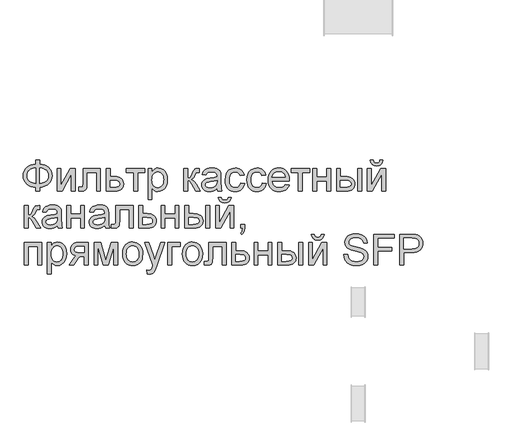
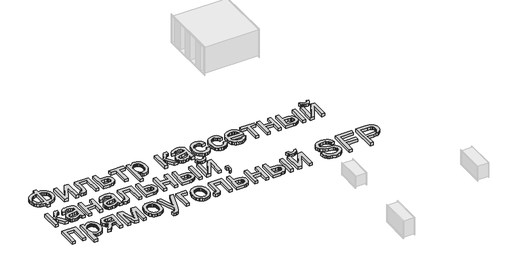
# One storey, part 28 of 31: 1 proxy.
"""IFC4 building model written with IfcOpenShell, lengths in millimetres."""

from ifc_helpers import new_model, si_unit, origin, origin_with_axes, place, context, project, spatial, polyline, outline, extrude, element, save

model = new_model("IFC4")

# Units and contexts
model_context = context("Model", 3, world=origin())
ifc_project = project(units=[si_unit("LENGTHUNIT", "METRE", prefix="MILLI")], contexts=[model_context])

# Site, building, storey
site = spatial("IfcSite", under=ifc_project)
building = spatial("IfcBuilding", under=site)
storey = spatial("IfcBuildingStorey", under=building, Name="Этаж 01", Elevation=0.0)

# Proxy
placement = place(None, origin())
element("IfcBuildingElementProxy", 1, Name="450 мм Arial", ObjectType="450 мм Arial", at=placement, inside=storey, context=model_context, shape_type="SweptSolid", body=[
    extrude(outline(polyline([(62433.5238392, -12344.4489058), (62433.5238392, -12288.241888), (62489.730857, -12288.241888), (62489.730857, -12344.4489058), (62529.8243274, -12349.4026982), (62565.4648735, -12359.6533433), (62596.6524956, -12375.2008411), (62623.3871934, -12396.0451917), (62644.8318998, -12420.9719612), (62660.1495472, -12448.7667158), (62669.3401356, -12479.4294554), (62672.4036651, -12512.96018), (62669.4361925, -12545.8185063), (62660.5337748, -12576.1107406), (62645.696412, -12603.8368831), (62624.9241041, -12628.9969337), (62598.6696908, -12650.1980671), (62567.3860118, -12666.0474582), (62531.0730673, -12676.5451068), (62489.730857, -12681.6910129), (62489.730857, -12737.8980308), (62433.5238392, -12737.8980308), (62433.5238392, -12681.6910129), (62395.9724465, -12677.5022453), (62361.7007114, -12668.0097637), (62330.7086338, -12653.2135682), (62302.9962137, -12633.1136586), (62280.1826964, -12608.5402413), (62263.8873268, -12580.3235225), (62254.1101051, -12548.463502), (62250.8510312, -12512.96018), (62254.0998133, -12477.2956196), (62263.8461596, -12445.3910014), (62280.0900701, -12417.2463252), (62302.8315448, -12392.8615911), (62330.4925057, -12372.957226), (62361.4948752, -12358.2536568), (62395.838653, -12348.7508834), (62433.5238392, -12344.4489058)]), holes=[polyline([(62489.730857, -12400.6559237), (62489.730857, -12625.4839951), (62517.5873625, -12622.5028001), (62542.3151569, -12616.1939191), (62563.9142405, -12606.5573522), (62582.384613, -12593.5930992), (62597.177378, -12577.589331), (62607.7436387, -12558.8342183), (62614.0833951, -12537.3277611), (62616.1966472, -12513.0699594), (62614.1211317, -12489.1860935), (62607.8945852, -12467.9232092), (62597.5170078, -12449.2813064), (62582.9883994, -12433.2603852), (62564.70671, -12420.1897835), (62543.0698899, -12410.3988394), (62518.0779389, -12403.8875527), (62489.730857, -12400.6559237)]), polyline([(62433.5238392, -12400.6559237), (62406.6038887, -12403.4827415), (62382.380393, -12409.6578289), (62360.8533522, -12419.1811859), (62342.0227662, -12432.0528125), (62326.7257024, -12448.0257053), (62315.7992283, -12466.8528607), (62309.2433438, -12488.5342787), (62307.058049, -12513.0699594), (62309.215899, -12537.3826508), (62315.689449, -12558.9439976), (62326.4786989, -12577.754), (62341.5836489, -12593.8126579), (62360.2770107, -12606.8043557), (62381.8314964, -12616.4134778), (62406.2471059, -12622.6400243), (62433.5238392, -12625.4839951), (62433.5238392, -12400.6559237)])]), origin_with_axes(), (0.0, 0.0, 1.0), 50.0),
    extrude(outline(polyline([(62742.6624374, -12407.6818009), (62798.8694552, -12407.6818009), (62798.8694552, -12659.5155879), (62936.9718546, -12407.6818009), (63009.6457722, -12407.6818009), (63009.6457722, -12737.8980308), (62953.4387543, -12737.8980308), (62953.4387543, -12487.6011544), (62816.2145896, -12737.8980308), (62742.6624374, -12737.8980308), (62742.6624374, -12407.6818009)])), origin_with_axes(), (0.0, 0.0, 1.0), 50.0),
    extrude(outline(polyline([(63122.0598079, -12407.6818009), (63374.9913882, -12407.6818009), (63374.9913882, -12737.5686928), (63318.7843704, -12737.5686928), (63318.7843704, -12463.8888188), (63178.2668257, -12463.8888188), (63178.2668257, -12621.4221598), (63174.4794388, -12694.0960774), (63167.3849495, -12710.5492548), (63153.6762554, -12724.7794006), (63132.8730721, -12734.6183732), (63104.4951148, -12737.8980308), (63058.8269128, -12735.0437682), (63058.8269128, -12681.6910129), (63083.9663798, -12681.6910129), (63109.3802951, -12678.232964), (63115.7337739, -12673.7594562), (63119.5348832, -12667.2550308), (63122.0598079, -12618.2385592), (63122.0598079, -12407.6818009)])), origin_with_axes(), (0.0, 0.0, 1.0), 50.0),
    extrude(outline(polyline([(63459.301915, -12407.6818009), (63515.5089328, -12407.6818009), (63515.5089328, -12527.1217138), (63580.2787386, -12527.1217138), (63610.1798841, -12528.8816137), (63636.4308668, -12534.1613135), (63659.0316867, -12542.960813), (63677.9823438, -12555.2801124), (63692.9672226, -12570.6938167), (63703.6707075, -12588.776531), (63710.0927984, -12609.5282553), (63712.2334953, -12632.9489896), (63710.4118445, -12653.8447993), (63704.9468922, -12673.1693923), (63695.8386383, -12690.9227686), (63683.0870827, -12707.1049282), (63666.3285816, -12720.5769106), (63645.1994909, -12730.1997551), (63619.6998105, -12735.9734619), (63589.8295404, -12737.8980308), (63459.301915, -12737.8980308), (63459.301915, -12407.6818009)]), holes=[polyline([(63515.5089328, -12681.6910129), (63567.9834534, -12681.6910129), (63608.6978631, -12678.7406934), (63635.7721908, -12669.8897348), (63650.9629058, -12654.7813542), (63656.0264775, -12633.058769), (63652.2802578, -12614.6981757), (63641.0415987, -12598.4782795), (63631.2746688, -12591.8503523), (63616.9587578, -12587.1161186), (63574.6799927, -12583.3287317), (63515.5089328, -12583.3287317), (63515.5089328, -12681.6910129)])]), origin_with_axes(), (0.0, 0.0, 1.0), 50.0),
    extrude(outline(polyline([(63754.3887587, -12407.6818009), (64021.3720935, -12407.6818009), (64021.3720935, -12463.8888188), (63915.983935, -12463.8888188), (63915.983935, -12737.8980308), (63859.7769172, -12737.8980308), (63859.7769172, -12463.8888188), (63754.3887587, -12463.8888188), (63754.3887587, -12407.6818009)])), origin_with_axes(), (0.0, 0.0, 1.0), 50.0),
    extrude(outline(polyline([(64070.5532341, -12864.3638209), (64070.5532341, -12407.6818009), (64126.760252, -12407.6818009), (64126.760252, -12462.7910254), (64145.0934004, -12435.6069184), (64165.6221354, -12416.1896991), (64189.5540297, -12404.5393675), (64218.096656, -12400.6559237), (64256.1077496, -12406.0900006), (64289.3434423, -12422.3922314), (64316.4040476, -12448.574602), (64335.889879, -12483.6490985), (64347.6637123, -12525.0633514), (64351.5883234, -12570.2649912), (64347.1559829, -12618.3346161), (64333.8589613, -12661.3269469), (64312.1226536, -12697.0601194), (64282.3724547, -12723.3522693), (64247.7233532, -12739.5309983), (64211.2903374, -12744.923908), (64185.4510272, -12741.3149125), (64162.3836451, -12730.4879259), (64142.6370878, -12714.1445279), (64126.760252, -12693.9862981), (64126.760252, -12864.3638209), (64070.5532341, -12864.3638209)]), holes=[polyline([(64126.760252, -12575.4246198), (64128.2800096, -12602.5126699), (64132.8392825, -12625.8133331), (64140.4380706, -12645.3266093), (64151.076374, -12661.0524986), (64163.8828191, -12673.1556699), (64177.9860327, -12681.8007923), (64193.3860145, -12686.9878657), (64210.0827648, -12688.7168902), (64227.0196573, -12686.9261148), (64242.7009487, -12681.5537888), (64257.126639, -12672.599912), (64270.2967282, -12660.0644846), (64281.2712308, -12643.769115), (64289.1101612, -12623.5354119), (64293.8135195, -12599.3633753), (64295.3813055, -12571.2530052), (64293.8512561, -12544.3982362), (64289.2611078, -12521.1387403), (64281.6108606, -12501.4745175), (64270.9005146, -12485.4055678), (64258.063194, -12472.9181688), (64244.0320231, -12463.9985981), (64228.807002, -12458.6468557), (64212.3881307, -12456.8629415), (64196.0207185, -12458.7600656), (64180.6207366, -12464.4514378), (64166.1881851, -12473.9370582), (64152.7230639, -12487.2169267), (64141.3643337, -12504.112652), (64133.250955, -12524.4458426), (64128.3829277, -12548.2164986), (64126.760252, -12575.4246198)])]), origin_with_axes(), (0.0, 0.0, 1.0), 50.0),
    extrude(outline(polyline([(64590.4681493, -12407.6818009), (64646.6751671, -12407.6818009), (64646.6751671, -12548.1993455), (64669.536713, -12545.6744209), (64684.3294779, -12538.099647), (64697.4206632, -12518.3393673), (64715.1774701, -12479.2579252), (64729.4899505, -12447.2984172), (64740.8109441, -12428.4849843), (64751.3772048, -12418.2343392), (64763.4254864, -12411.9631948), (64804.5378462, -12407.6818009), (64815.2962207, -12407.6818009), (64815.2962207, -12464.2181567), (64800.1466729, -12463.8888188), (64782.5819798, -12465.3708397), (64772.70184, -12469.8169027), (64753.3806776, -12506.8125375), (64741.5107873, -12531.4717199), (64730.7112456, -12546.8271039), (64717.6337827, -12557.077749), (64698.930129, -12566.4227146), (64716.7418256, -12574.3336877), (64734.3888532, -12588.2962465), (64751.8712118, -12608.3103909), (64769.1889013, -12634.3761209), (64829.3479751, -12737.8980308), (64765.4564041, -12737.8980308), (64706.5049029, -12636.5717076), (64690.5868998, -12609.6071592), (64676.8644833, -12593.7028785), (64663.0048427, -12585.9222684), (64646.6751671, -12583.3287317), (64646.6751671, -12737.8980308), (64590.4681493, -12737.8980308), (64590.4681493, -12407.6818009)])), origin_with_axes(), (0.0, 0.0, 1.0), 50.0),
    extrude(outline(polyline([(65075.2536782, -12695.7427674), (65048.3989092, -12718.7689822), (65020.74824, -12733.8361955), (64991.6704395, -12742.1519799), (64960.5342766, -12744.923908), (64935.5080195, -12743.2566344), (64913.562445, -12738.2548136), (64894.697553, -12729.9184456), (64878.9133434, -12718.2475304), (64866.4499587, -12703.9830785), (64857.547541, -12687.8661003), (64852.2060904, -12669.896596), (64850.4256068, -12650.0745654), (64853.1152005, -12626.7739022), (64861.1839813, -12605.613936), (64873.6302131, -12587.5003463), (64889.4521593, -12573.3388125), (64908.0460336, -12562.6353277), (64928.8080497, -12554.8958848), (64977.4402937, -12546.4428762), (65034.9097738, -12537.5507504), (65074.9243402, -12527.1217138), (65075.2536782, -12514.60687), (65071.3839568, -12489.5222927), (65059.7747925, -12473.1102826), (65033.8119805, -12460.9247768), (64997.6396907, -12456.8629415), (64964.1569945, -12459.5662576), (64940.7739969, -12467.6762057), (64924.8285489, -12482.6748069), (64913.6585019, -12506.0440821), (64857.4514841, -12499.0182049), (64867.2081222, -12468.279992), (64881.767606, -12444.128539), (64902.4884549, -12425.6581665), (64930.729188, -12411.9631948), (64965.2685103, -12403.4827415), (65004.8851266, -12400.6559237), (65042.8824978, -12403.1534035), (65073.0032019, -12410.6458429), (65095.7138012, -12421.9119468), (65111.4808577, -12435.7304202), (65121.9373391, -12452.8148287), (65128.7162128, -12473.8787379), (65131.4606961, -12523.0598786), (65131.4606961, -12592.9893129), (65134.3149587, -12690.6380285), (65145.5124506, -12737.8980308), (65089.3054327, -12737.8980308), (65080.3035275, -12718.3573097), (65075.2536782, -12695.7427674)]), holes=[polyline([(65075.2536782, -12583.3287317), (65037.4895881, -12592.6874197), (64984.5759502, -12600.5640868), (64936.2181546, -12609.6757713), (64923.6346987, -12615.9057484), (64914.3171779, -12624.4959811), (64908.553763, -12634.7877934), (64906.6326247, -12646.1225094), (64910.8179617, -12662.8364127), (64923.3739728, -12676.5313843), (64944.0262096, -12685.6705137), (64972.5002237, -12688.7168902), (65002.68954, -12685.3548981), (65029.3659176, -12675.268922), (65050.9924459, -12660.407545), (65066.0322144, -12642.7193502), (65072.7013088, -12624.4959811), (65074.9243402, -12599.2467348), (65075.2536782, -12583.3287317)])]), origin_with_axes(), (0.0, 0.0, 1.0), 50.0),
    extrude(outline(polyline([(65419.5216626, -12618.4581178), (65475.7286804, -12625.4839951), (65469.6153439, -12652.0059955), (65460.0576808, -12675.4747583), (65447.0556912, -12695.8902834), (65430.6093751, -12713.2525708), (65411.4117145, -12727.1087808), (65390.1556913, -12737.0060737), (65366.8413058, -12742.9444494), (65341.4685577, -12744.923908), (65309.9447365, -12742.1622717), (65281.6799892, -12733.8773628), (65256.6743158, -12720.0691812), (65234.9277163, -12700.737727), (65217.3252865, -12676.2466442), (65204.7521224, -12646.9595769), (65197.208224, -12612.8765249), (65194.6935912, -12573.9974885), (65198.9887075, -12523.9792805), (65211.8740566, -12480.6301668), (65221.5895275, -12461.8750541), (65233.5554746, -12445.6242824), (65247.7718981, -12431.8778517), (65264.2387978, -12420.635762), (65300.9462619, -12405.6508833), (65340.7001024, -12400.6559237), (65365.6371637, -12402.3712257), (65388.1933858, -12407.5171319), (65408.3687686, -12416.0936422), (65426.1633122, -12428.1007566), (65441.2751233, -12443.2640268), (65453.4023088, -12461.3090045), (65462.5448688, -12482.2356896), (65468.7028032, -12506.0440821), (65412.4957854, -12513.0699594), (65402.3000299, -12488.5480011), (65386.4231941, -12470.9695857), (65365.7435124, -12460.3896026), (65341.1392197, -12456.8629415), (65322.0410466, -12458.5988272), (65304.8159833, -12463.8064843), (65289.4640299, -12472.4859127), (65275.9851863, -12484.6371125), (65265.0106838, -12500.5413931), (65257.1717534, -12520.4800643), (65252.4683951, -12544.4531258), (65250.900609, -12572.4605778), (65252.4340891, -12600.8899942), (65257.0345292, -12625.1409347), (65264.7019294, -12645.2133994), (65275.4362897, -12661.1073882), (65288.6475461, -12673.1865453), (65303.7456348, -12681.8145147), (65320.7305558, -12686.9912963), (65339.6023091, -12688.7168902), (65368.7075544, -12684.4080514), (65392.5708366, -12671.4815351), (65409.9296935, -12649.6080032), (65419.5216626, -12618.4581178)])), origin_with_axes(), (0.0, 0.0, 1.0), 50.0),
    extrude(outline(polyline([(65735.686138, -12618.4581178), (65791.8931559, -12625.4839951), (65785.7798193, -12652.0059955), (65776.2221563, -12675.4747583), (65763.2201666, -12695.8902834), (65746.7738505, -12713.2525708), (65727.5761899, -12727.1087808), (65706.3201668, -12737.0060737), (65683.0057812, -12742.9444494), (65657.6330331, -12744.923908), (65626.1092119, -12742.1622717), (65597.8444646, -12733.8773628), (65572.8387912, -12720.0691812), (65551.0921917, -12700.737727), (65533.489762, -12676.2466442), (65520.9165979, -12646.9595769), (65513.3726994, -12612.8765249), (65510.8580666, -12573.9974885), (65515.153183, -12523.9792805), (65528.038532, -12480.6301668), (65537.7540029, -12461.8750541), (65549.71995, -12445.6242824), (65563.9363735, -12431.8778517), (65580.4032733, -12420.635762), (65617.1107373, -12405.6508833), (65656.8645778, -12400.6559237), (65681.8016391, -12402.3712257), (65704.3578612, -12407.5171319), (65724.533244, -12416.0936422), (65742.3277876, -12428.1007566), (65757.4395987, -12443.2640268), (65769.5667843, -12461.3090045), (65778.7093442, -12482.2356896), (65784.8672786, -12506.0440821), (65728.6602608, -12513.0699594), (65718.4645053, -12488.5480011), (65702.5876695, -12470.9695857), (65681.9079879, -12460.3896026), (65657.3036951, -12456.8629415), (65638.205522, -12458.5988272), (65620.9804588, -12463.8064843), (65605.6285053, -12472.4859127), (65592.1496618, -12484.6371125), (65581.1751592, -12500.5413931), (65573.3362288, -12520.4800643), (65568.6328705, -12544.4531258), (65567.0650844, -12572.4605778), (65568.5985645, -12600.8899942), (65573.1990046, -12625.1409347), (65580.8664048, -12645.2133994), (65591.6007651, -12661.1073882), (65604.8120215, -12673.1865453), (65619.9101103, -12681.8145147), (65636.8950312, -12686.9912963), (65655.7667845, -12688.7168902), (65684.8720298, -12684.4080514), (65708.7353121, -12671.4815351), (65726.0941689, -12649.6080032), (65735.686138, -12618.4581178)])), origin_with_axes(), (0.0, 0.0, 1.0), 50.0),
    extrude(outline(polyline([(66072.2695691, -12639.5357495), (66127.3787937, -12646.5616268), (66118.9292157, -12668.6341337), (66107.522457, -12688.085659), (66093.1585176, -12704.9162028), (66075.8373974, -12719.1257651), (66055.7374879, -12730.4124526), (66033.0371804, -12738.4743723), (66007.7364751, -12743.3115241), (65979.8353718, -12744.923908), (65944.9598503, -12742.1416881), (65913.8854383, -12733.7950283), (65886.6121355, -12719.8839286), (65863.1399422, -12700.408389), (65844.2647583, -12675.910445), (65830.7824841, -12646.932132), (65822.6931196, -12613.4734501), (65819.9966648, -12575.5343991), (65822.7205645, -12536.3088717), (65830.8922635, -12501.7352434), (65844.5117618, -12471.8135143), (65863.5790595, -12446.5436843), (65886.989502, -12426.467789), (65913.6384348, -12412.1278638), (65943.5258578, -12403.5239087), (65976.6517712, -12400.6559237), (66008.7107667, -12403.5170475), (66037.702802, -12412.100419), (66063.6278774, -12426.4060382), (66086.4859926, -12446.433905), (66105.1450484, -12471.6488453), (66118.4729454, -12501.5156847), (66126.4696836, -12536.0344233), (66129.135263, -12575.2050611), (66128.805925, -12590.3546089), (65876.2036826, -12590.3546089), (65879.4593259, -12612.7838986), (65885.9328759, -12632.4275378), (65895.6243325, -12649.2855264), (65908.5336958, -12663.3578645), (65923.9474001, -12674.4524382), (65941.1518798, -12682.3771338), (65960.1471348, -12687.1319511), (65980.9331651, -12688.7168902), (66010.848033, -12685.780293), (66036.0423897, -12676.9705017), (66056.516235, -12661.7386194), (66072.2695691, -12639.5357495)]), holes=[polyline([(65876.2036826, -12534.1475911), (66072.9282451, -12534.1475911), (66065.3260264, -12504.4522818), (66050.4234821, -12483.2099811), (66035.0955429, -12471.6831513), (66017.6543516, -12463.4497014), (65998.0999081, -12458.5096315), (65976.4322125, -12456.8629415), (65938.5446206, -12462.118627), (65907.2163439, -12477.8856836), (65894.7598203, -12489.285581), (65885.4388689, -12502.4625314), (65879.2534897, -12517.4165348), (65876.2036826, -12534.1475911)])]), origin_with_axes(), (0.0, 0.0, 1.0), 50.0),
    extrude(outline(polyline([(66157.2387719, -12407.6818009), (66424.2221067, -12407.6818009), (66424.2221067, -12463.8888188), (66318.8339482, -12463.8888188), (66318.8339482, -12737.8980308), (66262.6269304, -12737.8980308), (66262.6269304, -12463.8888188), (66157.2387719, -12463.8888188), (66157.2387719, -12407.6818009)])), origin_with_axes(), (0.0, 0.0, 1.0), 50.0),
    extrude(outline(polyline([(66473.4032473, -12407.6818009), (66529.6102652, -12407.6818009), (66529.6102652, -12534.1475911), (66677.153687, -12534.1475911), (66677.153687, -12407.6818009), (66733.3607049, -12407.6818009), (66733.3607049, -12737.8980308), (66677.153687, -12737.8980308), (66677.153687, -12590.3546089), (66529.6102652, -12590.3546089), (66529.6102652, -12737.8980308), (66473.4032473, -12737.8980308), (66473.4032473, -12407.6818009)])), origin_with_axes(), (0.0, 0.0, 1.0), 50.0),
    extrude(outline(polyline([(67126.8098298, -12407.6818009), (67183.0168477, -12407.6818009), (67183.0168477, -12737.8980308), (67126.8098298, -12737.8980308), (67126.8098298, -12407.6818009)])), origin_with_axes(), (0.0, 0.0, 1.0), 50.0),
    extrude(outline(polyline([(66817.6712317, -12407.6818009), (66873.8782495, -12407.6818009), (66873.8782495, -12527.1217138), (66943.3685665, -12527.1217138), (66975.3452275, -12528.8816137), (67003.4315834, -12534.1613135), (67027.6276342, -12542.960813), (67047.93338, -12555.2801124), (67063.9988991, -12570.6938167), (67075.4742698, -12588.776531), (67082.3594923, -12609.5282553), (67084.6545665, -12632.9489896), (67082.7299975, -12653.8447993), (67076.9562908, -12673.1693923), (67067.3334463, -12690.9227686), (67053.8614639, -12707.1049282), (67036.1629773, -12720.5769106), (67013.8606199, -12730.1997551), (66986.9543918, -12735.9734619), (66955.444293, -12737.8980308), (66817.6712317, -12737.8980308), (66817.6712317, -12407.6818009)]), holes=[polyline([(66873.8782495, -12681.6910129), (66931.622178, -12681.6910129), (66976.3847005, -12678.7406934), (67006.1623443, -12669.8897348), (67022.8762475, -12654.7813542), (67028.4475486, -12633.058769), (67024.3171012, -12614.6981757), (67011.9257592, -12598.4782795), (67001.1708153, -12591.8503523), (66985.427773, -12587.1161186), (66938.9773932, -12583.3287317), (66873.8782495, -12583.3287317), (66873.8782495, -12681.6910129)])]), origin_with_axes(), (0.0, 0.0, 1.0), 50.0),
    extrude(outline(polyline([(67267.3273745, -12407.6818009), (67323.5343923, -12407.6818009), (67323.5343923, -12659.5155879), (67461.6367917, -12407.6818009), (67534.3107093, -12407.6818009), (67534.3107093, -12737.8980308), (67478.1036914, -12737.8980308), (67478.1036914, -12487.6011544), (67340.8795267, -12737.8980308), (67267.3273745, -12737.8980308), (67267.3273745, -12407.6818009)])), origin_with_axes(), (0.0, 0.0, 1.0), 50.0),
    extrude(outline(polyline([(67450.0001825, -12288.241888), (67492.1554459, -12288.241888), (67483.0849286, -12324.2357864), (67475.1224964, -12338.6820603), (67464.8752819, -12350.7612174), (67452.5491214, -12360.2948662), (67438.3498509, -12367.1046154), (67404.3319805, -12372.5524147), (67367.4186802, -12367.1457827), (67352.0701574, -12360.3874925), (67338.7937194, -12350.9258864), (67327.7814802, -12338.8981884), (67319.2255536, -12324.4416226), (67309.4826379, -12288.241888), (67351.6379013, -12288.241888), (67357.5659852, -12306.7534278), (67367.446125, -12319.9132252), (67381.3332105, -12327.7761698), (67399.2821312, -12330.3971514), (67419.5364179, -12327.8585043), (67434.1919587, -12320.2425632), (67444.0720986, -12307.1651003), (67450.0001825, -12288.241888)])), origin_with_axes(), (0.0, 0.0, 1.0), 50.0),
    extrude(outline(polyline([(62264.9027856, -12948.1138841), (62321.1098035, -12948.1138841), (62321.1098035, -13088.6314287), (62343.9713493, -13086.1065041), (62358.7641143, -13078.5317302), (62371.8552996, -13058.7714505), (62389.6121065, -13019.6900084), (62403.9245869, -12987.7305004), (62415.2455805, -12968.9170674), (62425.8118411, -12958.6664223), (62437.8601228, -12952.395278), (62478.9724825, -12948.1138841), (62489.730857, -12948.1138841), (62489.730857, -13004.6502399), (62474.5813093, -13004.3209019), (62457.0166162, -13005.8029229), (62447.1364763, -13010.2489858), (62427.8153139, -13047.2446206), (62415.9454237, -13071.903803), (62405.1458819, -13087.2591871), (62392.068419, -13097.5098322), (62373.3647654, -13106.8547978), (62391.176462, -13114.7657709), (62408.8234895, -13128.7283296), (62426.3058481, -13148.742474), (62443.6235377, -13174.8082041), (62503.7826115, -13278.330114), (62439.8910404, -13278.330114), (62380.9395393, -13177.0037908), (62365.0215362, -13150.0392424), (62351.2991197, -13134.1349617), (62337.4394791, -13126.3543516), (62321.1098035, -13123.7608149), (62321.1098035, -13278.330114), (62264.9027856, -13278.330114), (62264.9027856, -12948.1138841)])), origin_with_axes(), (0.0, 0.0, 1.0), 50.0),
    extrude(outline(polyline([(62749.6883146, -13236.1748506), (62722.8335456, -13259.2010654), (62695.1828764, -13274.2682787), (62666.1050759, -13282.5840631), (62634.9689129, -13285.3559912), (62609.9426559, -13283.6887176), (62587.9970814, -13278.6868968), (62569.1321893, -13270.3505288), (62553.3479798, -13258.6796136), (62540.884595, -13244.4151617), (62531.9821773, -13228.2981835), (62526.6407267, -13210.3286792), (62524.8602432, -13190.5066486), (62527.5498368, -13167.2059854), (62535.6186177, -13146.0460192), (62548.0648494, -13127.9324295), (62563.8867956, -13113.7708957), (62582.4806699, -13103.0674108), (62603.2426861, -13095.3279679), (62651.87493, -13086.8749594), (62709.3444102, -13077.9828335), (62749.3589766, -13067.553797), (62749.6883146, -13055.0389532), (62745.8185932, -13029.9543759), (62734.2094288, -13013.5423658), (62708.2466169, -13001.35686), (62672.0743271, -12997.2950247), (62638.5916309, -12999.9983407), (62615.2086332, -13008.1082889), (62599.2631853, -13023.1068901), (62588.0931383, -13046.4761653), (62531.8861204, -13039.4502881), (62541.6427585, -13008.7120752), (62556.2022424, -12984.5606222), (62576.9230913, -12966.0902497), (62605.1638244, -12952.395278), (62639.7031466, -12943.9148246), (62679.319763, -12941.0880068), (62717.3171342, -12943.5854866), (62747.4378383, -12951.077926), (62770.1484376, -12962.34403), (62785.9154941, -12976.1625033), (62796.3719754, -12993.2469118), (62803.1508492, -13014.3108211), (62805.8953325, -13063.4919617), (62805.8953325, -13133.4213961), (62808.7495951, -13231.0701116), (62819.9470869, -13278.330114), (62763.7400691, -13278.330114), (62754.7381639, -13258.7893929), (62749.6883146, -13236.1748506)]), holes=[polyline([(62749.6883146, -13123.7608149), (62711.9242245, -13133.1195029), (62659.0105866, -13140.99617), (62610.652791, -13150.1078545), (62598.0693351, -13156.3378316), (62588.7518143, -13164.9280643), (62582.9883994, -13175.2198766), (62581.0672611, -13186.5545926), (62585.2525981, -13203.2684959), (62597.8086091, -13216.9634675), (62618.4608459, -13226.1025969), (62646.9348601, -13229.1489733), (62677.1241763, -13225.7869813), (62703.8005539, -13215.7010052), (62725.4270823, -13200.8396282), (62740.4668507, -13183.1514333), (62747.1359451, -13164.9280643), (62749.3589766, -13139.678818), (62749.6883146, -13123.7608149)])]), origin_with_axes(), (0.0, 0.0, 1.0), 50.0),
    extrude(outline(polyline([(62883.179982, -12948.1138841), (62939.3869999, -12948.1138841), (62939.3869999, -13074.5796742), (63086.9304217, -13074.5796742), (63086.9304217, -12948.1138841), (63143.1374396, -12948.1138841), (63143.1374396, -13278.330114), (63086.9304217, -13278.330114), (63086.9304217, -13130.7866921), (62939.3869999, -13130.7866921), (62939.3869999, -13278.330114), (62883.179982, -13278.330114), (62883.179982, -12948.1138841)])), origin_with_axes(), (0.0, 0.0, 1.0), 50.0),
    extrude(outline(polyline([(63438.2242833, -13236.1748506), (63411.3695143, -13259.2010654), (63383.7188451, -13274.2682787), (63354.6410446, -13282.5840631), (63323.5048816, -13285.3559912), (63298.4786246, -13283.6887176), (63276.5330501, -13278.6868968), (63257.668158, -13270.3505288), (63241.8839485, -13258.6796136), (63229.4205637, -13244.4151617), (63220.518146, -13228.2981835), (63215.1766954, -13210.3286792), (63213.3962119, -13190.5066486), (63216.0858055, -13167.2059854), (63224.1545864, -13146.0460192), (63236.6008181, -13127.9324295), (63252.4227643, -13113.7708957), (63271.0166386, -13103.0674108), (63291.7786548, -13095.3279679), (63340.4108987, -13086.8749594), (63397.8803789, -13077.9828335), (63437.8949453, -13067.553797), (63438.2242833, -13055.0389532), (63434.3545619, -13029.9543759), (63422.7453975, -13013.5423658), (63396.7825856, -13001.35686), (63360.6102958, -12997.2950247), (63327.1275996, -12999.9983407), (63303.7446019, -13008.1082889), (63287.799154, -13023.1068901), (63276.629107, -13046.4761653), (63220.4220891, -13039.4502881), (63230.1787272, -13008.7120752), (63244.7382111, -12984.5606222), (63265.45906, -12966.0902497), (63293.6997931, -12952.395278), (63328.2391153, -12943.9148246), (63367.8557317, -12941.0880068), (63405.8531028, -12943.5854866), (63435.973807, -12951.077926), (63458.6844063, -12962.34403), (63474.4514628, -12976.1625033), (63484.9079441, -12993.2469118), (63491.6868179, -13014.3108211), (63494.4313011, -13063.4919617), (63494.4313011, -13133.4213961), (63497.2855638, -13231.0701116), (63508.4830556, -13278.330114), (63452.2760378, -13278.330114), (63443.2741326, -13258.7893929), (63438.2242833, -13236.1748506)]), holes=[polyline([(63438.2242833, -13123.7608149), (63400.4601932, -13133.1195029), (63347.5465553, -13140.99617), (63299.1887596, -13150.1078545), (63286.6053037, -13156.3378316), (63277.287783, -13164.9280643), (63271.524368, -13175.2198766), (63269.6032297, -13186.5545926), (63273.7885668, -13203.2684959), (63286.3445778, -13216.9634675), (63306.9968146, -13226.1025969), (63335.4708288, -13229.1489733), (63365.660145, -13225.7869813), (63392.3365226, -13215.7010052), (63413.963051, -13200.8396282), (63429.0028194, -13183.1514333), (63435.6719138, -13164.9280643), (63437.8949453, -13139.678818), (63438.2242833, -13123.7608149)])]), origin_with_axes(), (0.0, 0.0, 1.0), 50.0),
    extrude(outline(polyline([(63599.8194596, -12948.1138841), (63852.75104, -12948.1138841), (63852.75104, -13278.000776), (63796.5440221, -13278.000776), (63796.5440221, -13004.3209019), (63656.0264775, -13004.3209019), (63656.0264775, -13161.854243), (63652.2390905, -13234.5281606), (63645.1446012, -13250.9813379), (63631.4359072, -13265.2114838), (63610.6327238, -13275.0504564), (63582.2547665, -13278.330114), (63536.5865645, -13275.4758513), (63536.5865645, -13222.1230961), (63561.7260315, -13222.1230961), (63587.1399468, -13218.6650472), (63593.4934256, -13214.1915394), (63597.294535, -13207.687114), (63599.8194596, -13158.6706424), (63599.8194596, -12948.1138841)])), origin_with_axes(), (0.0, 0.0, 1.0), 50.0),
    extrude(outline(polyline([(63937.0615667, -12948.1138841), (63993.2685846, -12948.1138841), (63993.2685846, -13067.553797), (64058.0383903, -13067.553797), (64087.9395358, -13069.3136969), (64114.1905185, -13074.5933967), (64136.7913384, -13083.3928962), (64155.7419956, -13095.7121956), (64170.7268743, -13111.1258999), (64181.4303592, -13129.2086142), (64187.8524501, -13149.9603385), (64189.9931471, -13173.3810728), (64188.1714963, -13194.2768825), (64182.7065439, -13213.6014755), (64173.59829, -13231.3548518), (64160.8467345, -13247.5370114), (64144.0882334, -13261.0089938), (64122.9591426, -13270.6318383), (64097.4594622, -13276.4055451), (64067.5891922, -13278.330114), (63937.0615667, -13278.330114), (63937.0615667, -12948.1138841)]), holes=[polyline([(63993.2685846, -13222.1230961), (64045.7431052, -13222.1230961), (64086.4575148, -13219.1727766), (64113.5318425, -13210.3218179), (64128.7225575, -13195.2134374), (64133.7861292, -13173.4908521), (64130.0399095, -13155.1302589), (64118.8012504, -13138.9103626), (64109.0343205, -13132.2824355), (64094.7184095, -13127.5482018), (64052.4396444, -13123.7608149), (63993.2685846, -13123.7608149), (63993.2685846, -13222.1230961)])]), origin_with_axes(), (0.0, 0.0, 1.0), 50.0),
    extrude(outline(polyline([(64260.2519194, -12948.1138841), (64316.4589372, -12948.1138841), (64316.4589372, -13074.5796742), (64464.0023591, -13074.5796742), (64464.0023591, -12948.1138841), (64520.209377, -12948.1138841), (64520.209377, -13278.330114), (64464.0023591, -13278.330114), (64464.0023591, -13130.7866921), (64316.4589372, -13130.7866921), (64316.4589372, -13278.330114), (64260.2519194, -13278.330114), (64260.2519194, -12948.1138841)])), origin_with_axes(), (0.0, 0.0, 1.0), 50.0),
    extrude(outline(polyline([(64913.6585019, -12948.1138841), (64969.8655198, -12948.1138841), (64969.8655198, -13278.330114), (64913.6585019, -13278.330114), (64913.6585019, -12948.1138841)])), origin_with_axes(), (0.0, 0.0, 1.0), 50.0),
    extrude(outline(polyline([(64604.5199037, -12948.1138841), (64660.7269216, -12948.1138841), (64660.7269216, -13067.553797), (64730.2172386, -13067.553797), (64762.1938995, -13069.3136969), (64790.2802555, -13074.5933967), (64814.4763063, -13083.3928962), (64834.7820521, -13095.7121956), (64850.8475711, -13111.1258999), (64862.3229419, -13129.2086142), (64869.2081644, -13149.9603385), (64871.5032385, -13173.3810728), (64869.5786696, -13194.2768825), (64863.8049629, -13213.6014755), (64854.1821183, -13231.3548518), (64840.710136, -13247.5370114), (64823.0116493, -13261.0089938), (64800.709292, -13270.6318383), (64773.8030639, -13276.4055451), (64742.2929651, -13278.330114), (64604.5199037, -13278.330114), (64604.5199037, -12948.1138841)]), holes=[polyline([(64660.7269216, -13222.1230961), (64718.4708501, -13222.1230961), (64763.2333726, -13219.1727766), (64793.0110163, -13210.3218179), (64809.7249196, -13195.2134374), (64815.2962207, -13173.4908521), (64811.1657733, -13155.1302589), (64798.7744312, -13138.9103626), (64788.0194873, -13132.2824355), (64772.276445, -13127.5482018), (64725.8260653, -13123.7608149), (64660.7269216, -13123.7608149), (64660.7269216, -13222.1230961)])]), origin_with_axes(), (0.0, 0.0, 1.0), 50.0),
    extrude(outline(polyline([(65054.1760465, -12948.1138841), (65110.3830644, -12948.1138841), (65110.3830644, -13199.9476711), (65248.4854637, -12948.1138841), (65321.1593813, -12948.1138841), (65321.1593813, -13278.330114), (65264.9523635, -13278.330114), (65264.9523635, -13028.0332376), (65127.7281988, -13278.330114), (65054.1760465, -13278.330114), (65054.1760465, -12948.1138841)])), origin_with_axes(), (0.0, 0.0, 1.0), 50.0),
    extrude(outline(polyline([(65236.8488546, -12828.6739711), (65279.004118, -12828.6739711), (65269.9336007, -12864.6678695), (65261.9711685, -12879.1141435), (65251.723954, -12891.1933006), (65239.3977934, -12900.7269494), (65225.198523, -12907.5366986), (65191.1806526, -12912.9844979), (65154.2673523, -12907.5778658), (65138.9188294, -12900.8195757), (65125.6423915, -12891.3579696), (65114.6301523, -12879.3302715), (65106.0742256, -12864.8737058), (65096.3313099, -12828.6739711), (65138.4865733, -12828.6739711), (65144.4146572, -12847.185511), (65154.2947971, -12860.3453084), (65168.1818826, -12868.208253), (65186.1308033, -12870.8292345), (65206.38509, -12868.2905875), (65221.0406308, -12860.6746463), (65230.9207707, -12847.5971835), (65236.8488546, -12828.6739711)])), origin_with_axes(), (0.0, 0.0, 1.0), 50.0),
    extrude(outline(polyline([(65419.5216626, -13278.330114), (65419.5216626, -13222.1230961), (65475.7286804, -13222.1230961), (65475.7286804, -13278.330114), (65473.2037558, -13310.4817357), (65465.6289819, -13335.7995941), (65452.5652414, -13355.2168134), (65433.573417, -13369.666518), (65419.5216626, -13348.5888863), (65431.7071684, -13338.4068533), (65440.160177, -13324.327654), (65445.2923607, -13304.8143777), (65447.5153922, -13278.330114), (65419.5216626, -13278.330114)])), origin_with_axes(), (0.0, 0.0, 1.0), 50.0),
    extrude(outline(polyline([(62264.9027856, -13488.5459673), (62517.834366, -13488.5459673), (62517.834366, -13818.7621971), (62461.6273481, -13818.7621971), (62461.6273481, -13544.7529851), (62321.1098035, -13544.7529851), (62321.1098035, -13818.7621971), (62264.9027856, -13818.7621971), (62264.9027856, -13488.5459673)])), origin_with_axes(), (0.0, 0.0, 1.0), 50.0),
    extrude(outline(polyline([(62602.1448927, -13945.2279873), (62602.1448927, -13488.5459673), (62658.3519106, -13488.5459673), (62658.3519106, -13543.6551918), (62676.685059, -13516.4710848), (62697.213794, -13497.0538655), (62721.1456884, -13485.4035339), (62749.6883146, -13481.52009), (62787.6994082, -13486.9541669), (62820.9351009, -13503.2563977), (62847.9957062, -13529.4387683), (62867.4815376, -13564.5132648), (62879.2553709, -13605.9275177), (62883.179982, -13651.1291576), (62878.7476415, -13699.1987825), (62865.4506199, -13742.1911132), (62843.7143122, -13777.9242857), (62813.9641133, -13804.2164357), (62779.3150118, -13820.3951647), (62742.881996, -13825.7880744), (62717.0426858, -13822.1790788), (62693.9753037, -13811.3520922), (62674.2287465, -13795.0086942), (62658.3519106, -13774.8504644), (62658.3519106, -13945.2279873), (62602.1448927, -13945.2279873)]), holes=[polyline([(62658.3519106, -13656.2887862), (62659.8716682, -13683.3768363), (62664.4309411, -13706.6774994), (62672.0297292, -13726.1907756), (62682.6680326, -13741.9166649), (62695.4744777, -13754.0198362), (62709.5776913, -13762.6649586), (62724.9776732, -13767.852032), (62741.6744234, -13769.5810565), (62758.6113159, -13767.7902812), (62774.2926073, -13762.4179551), (62788.7182976, -13753.4640784), (62801.8883869, -13740.9286509), (62812.8628894, -13724.6332814), (62820.7018198, -13704.3995783), (62825.4051781, -13680.2275417), (62826.9729642, -13652.1171716), (62825.4429147, -13625.2624025), (62820.8527664, -13602.0029066), (62813.2025192, -13582.3386838), (62802.4921732, -13566.2697341), (62789.6548526, -13553.7823351), (62775.6236817, -13544.8627644), (62760.3986607, -13539.511022), (62743.9797894, -13537.7271079), (62727.6123771, -13539.624232), (62712.2123952, -13545.3156042), (62697.7798437, -13554.8012246), (62684.3147226, -13568.0810931), (62672.9559923, -13584.9768184), (62664.8426136, -13605.310009), (62659.9745863, -13629.0806649), (62658.3519106, -13656.2887862)])]), origin_with_axes(), (0.0, 0.0, 1.0), 50.0),
    extrude(outline(polyline([(63199.3444574, -13488.5459673), (63199.3444574, -13818.7621971), (63143.1374396, -13818.7621971), (63143.1374396, -13692.296407), (63112.509006, -13692.296407), (63088.0831047, -13694.0803211), (63070.79286, -13699.4320635), (63054.1338464, -13714.9932838), (63031.6016385, -13747.4056315), (62986.8116712, -13818.7621971), (62921.8223068, -13818.7621971), (62978.2488833, -13728.5235864), (63003.1687916, -13696.1386836), (63014.8877353, -13686.6976611), (63026.1126719, -13681.7575911), (63005.4741576, -13677.1948876), (62987.6899058, -13669.9837578), (62972.7599167, -13660.1242016), (62960.6841902, -13647.616219), (62944.7112974, -13617.86602), (62939.3869999, -13583.9442065), (62941.20522, -13563.7036423), (62946.6598806, -13545.4665508), (62955.7509815, -13529.2329321), (62968.4785228, -13515.0027862), (62984.6503906, -13503.4279279), (63004.0744711, -13495.160172), (63026.7507643, -13490.1995184), (63052.6792702, -13488.5459673), (63199.3444574, -13488.5459673)]), holes=[polyline([(63143.1374396, -13544.7529851), (63069.0363906, -13544.7529851), (63030.7645711, -13548.0051978), (63017.8346242, -13552.0704637), (63009.0419858, -13557.7618359), (62998.9560097, -13571.8822025), (62995.5940177, -13588.2256005), (63000.5478101, -13609.6462926), (63015.4091871, -13624.5076696), (63042.8677424, -13633.1939592), (63085.6130697, -13636.0893891), (63143.1374396, -13636.0893891), (63143.1374396, -13544.7529851)])]), origin_with_axes(), (0.0, 0.0, 1.0), 50.0),
    extrude(outline(polyline([(63283.6549842, -13488.5459673), (63380.3705755, -13488.5459673), (63454.9107417, -13752.8945981), (63535.2692126, -13488.5459673), (63627.9229685, -13488.5459673), (63627.9229685, -13818.7621971), (63571.7159507, -13818.7621971), (63571.7159507, -13552.8766557), (63490.9183625, -13818.7621971), (63417.1466516, -13818.7621971), (63339.8620021, -13540.1422532), (63339.8620021, -13818.7621971), (63283.6549842, -13818.7621971), (63283.6549842, -13488.5459673)])), origin_with_axes(), (0.0, 0.0, 1.0), 50.0),
    extrude(outline(polyline([(63698.1817409, -13653.6540822), (63701.2212561, -13610.8881713), (63710.3398019, -13574.0366219), (63725.5373781, -13543.0994339), (63746.8139848, -13518.0766075), (63768.2346769, -13502.0831311), (63791.8784005, -13490.6592194), (63817.7451555, -13483.8048724), (63845.8349421, -13481.52009), (63876.8441727, -13484.30231), (63904.8825001, -13492.6489698), (63929.9499244, -13506.5600695), (63952.0464455, -13526.035609), (63970.0811314, -13550.4169125), (63982.9630498, -13579.0453039), (63990.6922009, -13611.9207831), (63993.2685846, -13649.0433503), (63988.7127423, -13705.8267096), (63983.0179395, -13729.134234), (63975.0452155, -13749.0523215), (63952.6639543, -13781.4235019), (63921.9669086, -13805.643567), (63885.5064481, -13820.7519475), (63845.8349421, -13825.7880744), (63814.3728717, -13823.0161462), (63786.0738183, -13814.7003619), (63760.937782, -13800.8407212), (63738.9647626, -13781.4372243), (63721.1221906, -13756.8192092), (63708.3774963, -13727.3160138), (63700.7306797, -13692.9276381), (63698.1817409, -13653.6540822)]), holes=[polyline([(63754.3887587, -13653.5443029), (63756.0148651, -13680.8073138), (63760.8931841, -13704.4133007), (63769.0237159, -13724.3622637), (63780.4064603, -13740.6542026), (63794.2523786, -13753.3097012), (63809.7724316, -13762.349343), (63826.9666194, -13767.7731281), (63845.8349421, -13769.5810565), (63864.6072078, -13767.7628363), (63881.7327835, -13762.3081758), (63897.2116693, -13753.2170749), (63911.0438651, -13740.4895336), (63922.4266096, -13724.0363563), (63930.5571413, -13703.7683471), (63935.4354604, -13679.6855062), (63937.0615667, -13651.7878336), (63935.4251686, -13625.3893349), (63930.5159741, -13602.4008567), (63922.3339833, -13582.822399), (63910.8791961, -13566.6539618), (63896.9955413, -13553.9984632), (63881.5269473, -13544.9588214), (63864.4734142, -13539.5350362), (63845.8349421, -13537.7271079), (63826.9666194, -13539.528175), (63809.7724316, -13544.9313765), (63794.2523786, -13553.9367123), (63780.4064603, -13566.5441825), (63769.0237159, -13582.788093), (63760.8931841, -13602.7027499), (63756.0148651, -13626.2881532), (63754.3887587, -13653.5443029)])]), origin_with_axes(), (0.0, 0.0, 1.0), 50.0),
    extrude(outline(polyline([(64056.5014797, -13945.2279873), (64049.4756024, -13891.1067768), (64078.0182287, -13896.0468467), (64093.0305523, -13894.4962136), (64104.6946063, -13889.8443144), (64121.0517267, -13872.5540697), (64136.4208332, -13831.1672616), (64140.8120064, -13817.5546245), (64021.3720935, -13488.5459673), (64080.6529327, -13488.5459673), (64143.9956071, -13671.8774513), (64166.0612528, -13745.2100449), (64188.1268984, -13680.4402391), (64253.2260422, -13488.5459673), (64312.067764, -13488.5459673), (64197.1288036, -13826.666309), (64167.2688254, -13899.9989026), (64151.9820535, -13923.4093451), (64134.6643639, -13939.6292414), (64114.5473013, -13949.0977087), (64090.8624105, -13952.2538645), (64056.5014797, -13945.2279873)])), origin_with_axes(), (0.0, 0.0, 1.0), 50.0),
    extrude(outline(polyline([(64358.6142006, -13488.5459673), (64541.2870086, -13488.5459673), (64541.2870086, -13544.7529851), (64414.8212185, -13544.7529851), (64414.8212185, -13818.7621971), (64358.6142006, -13818.7621971), (64358.6142006, -13488.5459673)])), origin_with_axes(), (0.0, 0.0, 1.0), 50.0),
    extrude(outline(polyline([(64569.3905176, -13653.6540822), (64572.4300328, -13610.8881713), (64581.5485786, -13574.0366219), (64596.7461548, -13543.0994339), (64618.0227615, -13518.0766075), (64639.4434536, -13502.0831311), (64663.0871772, -13490.6592194), (64688.9539323, -13483.8048724), (64717.0437188, -13481.52009), (64748.0529494, -13484.30231), (64776.0912768, -13492.6489698), (64801.1587011, -13506.5600695), (64823.2552222, -13526.035609), (64841.2899081, -13550.4169125), (64854.1718265, -13579.0453039), (64861.9009776, -13611.9207831), (64864.4773613, -13649.0433503), (64859.921519, -13705.8267096), (64854.2267162, -13729.134234), (64846.2539922, -13749.0523215), (64823.872731, -13781.4235019), (64793.1756853, -13805.643567), (64756.7152248, -13820.7519475), (64717.0437188, -13825.7880744), (64685.5816484, -13823.0161462), (64657.282595, -13814.7003619), (64632.1465587, -13800.8407212), (64610.1735393, -13781.4372243), (64592.3309673, -13756.8192092), (64579.586273, -13727.3160138), (64571.9394564, -13692.9276381), (64569.3905176, -13653.6540822)]), holes=[polyline([(64625.5975354, -13653.5443029), (64627.2236418, -13680.8073138), (64632.1019608, -13704.4133007), (64640.2324926, -13724.3622637), (64651.615237, -13740.6542026), (64665.4611553, -13753.3097012), (64680.9812083, -13762.349343), (64698.1753961, -13767.7731281), (64717.0437188, -13769.5810565), (64735.8159845, -13767.7628363), (64752.9415602, -13762.3081758), (64768.420446, -13753.2170749), (64782.2526418, -13740.4895336), (64793.6353863, -13724.0363563), (64801.765918, -13703.7683471), (64806.6442371, -13679.6855062), (64808.2703434, -13651.7878336), (64806.6339453, -13625.3893349), (64801.7247508, -13602.4008567), (64793.54276, -13582.822399), (64782.0879728, -13566.6539618), (64768.204318, -13553.9984632), (64752.735724, -13544.9588214), (64735.6821909, -13539.5350362), (64717.0437188, -13537.7271079), (64698.1753961, -13539.528175), (64680.9812083, -13544.9313765), (64665.4611553, -13553.9367123), (64651.615237, -13566.5441825), (64640.2324926, -13582.788093), (64632.1019608, -13602.7027499), (64627.2236418, -13626.2881532), (64625.5975354, -13653.5443029)])]), origin_with_axes(), (0.0, 0.0, 1.0), 50.0),
    extrude(outline(polyline([(64955.8137653, -13488.5459673), (65208.7453456, -13488.5459673), (65208.7453456, -13818.4328591), (65152.5383278, -13818.4328591), (65152.5383278, -13544.7529851), (65012.0207832, -13544.7529851), (65012.0207832, -13702.2863262), (65008.2333962, -13774.9602438), (65001.1389069, -13791.4134211), (64987.4302128, -13805.643567), (64966.6270295, -13815.4825396), (64938.2490722, -13818.7621971), (64892.5808702, -13815.9079345), (64892.5808702, -13762.5551793), (64917.7203372, -13762.5551793), (64943.1342525, -13759.0971303), (64949.4877313, -13754.6236226), (64953.2888407, -13748.1191972), (64955.8137653, -13699.1027255), (64955.8137653, -13488.5459673)])), origin_with_axes(), (0.0, 0.0, 1.0), 50.0),
    extrude(outline(polyline([(65293.0558724, -13488.5459673), (65349.2628903, -13488.5459673), (65349.2628903, -13607.9858802), (65414.032696, -13607.9858802), (65443.9338415, -13609.7457801), (65470.1848242, -13615.0254798), (65492.7856441, -13623.8249794), (65511.7363013, -13636.1442788), (65526.72118, -13651.5579831), (65537.4246649, -13669.6406974), (65543.8467558, -13690.3924217), (65545.9874528, -13713.813156), (65544.165802, -13734.7089657), (65538.7008496, -13754.0335587), (65529.5925957, -13771.786935), (65516.8410402, -13787.9690946), (65500.0825391, -13801.441077), (65478.9534483, -13811.0639215), (65453.4537679, -13816.8376282), (65423.5834979, -13818.7621971), (65293.0558724, -13818.7621971), (65293.0558724, -13488.5459673)]), holes=[polyline([(65349.2628903, -13762.5551793), (65401.7374108, -13762.5551793), (65442.4518205, -13759.6048597), (65469.5261482, -13750.7539011), (65484.7168632, -13735.6455206), (65489.7804349, -13713.9229353), (65486.0342152, -13695.5623421), (65474.7955561, -13679.3424458), (65465.0286262, -13672.7145187), (65450.7127152, -13667.980285), (65408.4339501, -13664.192898), (65349.2628903, -13664.192898), (65349.2628903, -13762.5551793)])]), origin_with_axes(), (0.0, 0.0, 1.0), 50.0),
    extrude(outline(polyline([(65616.2462251, -13488.5459673), (65672.4532429, -13488.5459673), (65672.4532429, -13615.0117574), (65819.9966648, -13615.0117574), (65819.9966648, -13488.5459673), (65876.2036826, -13488.5459673), (65876.2036826, -13818.7621971), (65819.9966648, -13818.7621971), (65819.9966648, -13671.2187753), (65672.4532429, -13671.2187753), (65672.4532429, -13818.7621971), (65616.2462251, -13818.7621971), (65616.2462251, -13488.5459673)])), origin_with_axes(), (0.0, 0.0, 1.0), 50.0),
    extrude(outline(polyline([(66269.6528076, -13488.5459673), (66325.8598255, -13488.5459673), (66325.8598255, -13818.7621971), (66269.6528076, -13818.7621971), (66269.6528076, -13488.5459673)])), origin_with_axes(), (0.0, 0.0, 1.0), 50.0),
    extrude(outline(polyline([(65960.5142094, -13488.5459673), (66016.7212273, -13488.5459673), (66016.7212273, -13607.9858802), (66086.2115443, -13607.9858802), (66118.1882052, -13609.7457801), (66146.2745611, -13615.0254798), (66170.470612, -13623.8249794), (66190.7763577, -13636.1442788), (66206.8418768, -13651.5579831), (66218.3172476, -13669.6406974), (66225.2024701, -13690.3924217), (66227.4975442, -13713.813156), (66225.5729753, -13734.7089657), (66219.7992686, -13754.0335587), (66210.176424, -13771.786935), (66196.7044417, -13787.9690946), (66179.005955, -13801.441077), (66156.7035977, -13811.0639215), (66129.7973696, -13816.8376282), (66098.2872708, -13818.7621971), (65960.5142094, -13818.7621971), (65960.5142094, -13488.5459673)]), holes=[polyline([(66016.7212273, -13762.5551793), (66074.4651558, -13762.5551793), (66119.2276783, -13759.6048597), (66149.005322, -13750.7539011), (66165.7192253, -13735.6455206), (66171.2905264, -13713.9229353), (66167.160079, -13695.5623421), (66154.7687369, -13679.3424458), (66144.013793, -13672.7145187), (66128.2707507, -13667.980285), (66081.820371, -13664.192898), (66016.7212273, -13664.192898), (66016.7212273, -13762.5551793)])]), origin_with_axes(), (0.0, 0.0, 1.0), 50.0),
    extrude(outline(polyline([(66410.1703522, -13488.5459673), (66466.3773701, -13488.5459673), (66466.3773701, -13740.3797543), (66604.4797694, -13488.5459673), (66677.153687, -13488.5459673), (66677.153687, -13818.7621971), (66620.9466692, -13818.7621971), (66620.9466692, -13568.4653208), (66483.7225045, -13818.7621971), (66410.1703522, -13818.7621971), (66410.1703522, -13488.5459673)])), origin_with_axes(), (0.0, 0.0, 1.0), 50.0),
    extrude(outline(polyline([(66592.8431603, -13369.1060543), (66634.9984236, -13369.1060543), (66625.9279064, -13405.0999527), (66617.9654742, -13419.5462267), (66607.7182597, -13431.6253837), (66595.3920991, -13441.1590326), (66581.1928287, -13447.9687818), (66547.1749582, -13453.4165811), (66510.2616579, -13448.009949), (66494.9131351, -13441.2516589), (66481.6366972, -13431.7900527), (66470.624458, -13419.7623547), (66462.0685313, -13405.305789), (66452.3256156, -13369.1060543), (66494.480879, -13369.1060543), (66500.4089629, -13387.6175941), (66510.2891028, -13400.7773915), (66524.1761882, -13408.6403362), (66542.125109, -13411.2613177), (66562.3793957, -13408.7226707), (66577.0349365, -13401.1067295), (66586.9150763, -13388.0292666), (66592.8431603, -13369.1060543)])), origin_with_axes(), (0.0, 0.0, 1.0), 50.0),
    extrude(outline(polyline([(66923.0593901, -13664.192898), (66979.266408, -13664.192898), (66985.7159437, -13695.3839507), (66997.3799977, -13720.4548056), (67015.575922, -13740.3523094), (67041.6210684, -13756.023309), (67073.4570746, -13766.1916197), (67109.0255781, -13769.5810565), (67140.3401325, -13767.0149646), (67167.7575206, -13759.316689), (67189.9741128, -13747.1311832), (67205.6862797, -13731.1034007), (67215.0312453, -13712.7016403), (67218.1462339, -13693.3942003), (67215.8134231, -13674.5807673), (67208.8149907, -13658.3197038), (67194.5985672, -13644.4463407), (67170.6117832, -13632.7960092), (67088.7712914, -13611.3341498), (67035.0480309, -13597.1314488), (67000.6733777, -13583.6148685), (66972.6933705, -13564.7053787), (66952.8644787, -13541.7889432), (66941.0494781, -13515.359569), (66937.1111446, -13485.9112633), (66941.9826024, -13452.9911862), (66956.596976, -13422.2941406), (66980.5700375, -13396.2764389), (67013.5175595, -13377.3943939), (67053.0655637, -13365.9087313), (67096.8400723, -13362.0801771), (67144.2647436, -13366.0871227), (67185.761331, -13378.1079595), (67219.8478135, -13397.8956841), (67245.0421701, -13425.2032928), (67260.9876181, -13458.3292062), (67267.3273745, -13495.5718445), (67211.1203566, -13495.5718445), (67207.3604145, -13477.6366462), (67200.8010994, -13462.0342586), (67191.4424114, -13448.7646819), (67179.2843504, -13437.827916), (67164.1004966, -13429.2788505), (67145.6644301, -13423.1723752), (67099.0356589, -13418.2871949), (67051.3090944, -13423.1174855), (67033.0651417, -13429.1553488), (67018.5674087, -13437.6083573), (66999.630474, -13458.9329925), (66994.8962403, -13471.0979147), (66993.3181624, -13484.2645733), (66997.7916702, -13505.8636568), (67011.2121935, -13523.2362361), (67042.9384204, -13538.7700115), (67102.9877149, -13554.633125), (67164.9581476, -13569.7003382), (67202.4477894, -13582.8464132), (67234.4896319, -13603.2379241), (67256.8434483, -13628.4048359), (67269.9758009, -13658.0727003), (67274.3532517, -13691.967069), (67269.3171249, -13726.6161706), (67254.2087443, -13759.2069097), (67229.6456189, -13787.2555289), (67196.2452572, -13808.278271), (67156.0797442, -13821.4106235), (67111.2211647, -13825.7880744), (67056.1531075, -13821.0675631), (67010.8279659, -13806.9060293), (66991.6886255, -13796.2711565), (66974.7242881, -13783.2485833), (66959.9349538, -13767.8383096), (66947.3206224, -13750.0403355), (66929.7284845, -13709.5866517), (66923.0593901, -13664.192898)])), origin_with_axes(), (0.0, 0.0, 1.0), 50.0),
    extrude(outline(polyline([(67358.6637785, -13818.7621971), (67358.6637785, -13369.1060543), (67660.7764994, -13369.1060543), (67660.7764994, -13425.3130722), (67414.8707963, -13425.3130722), (67414.8707963, -13558.8047396), (67625.6471133, -13558.8047396), (67625.6471133, -13615.0117574), (67414.8707963, -13615.0117574), (67414.8707963, -13818.7621971), (67358.6637785, -13818.7621971)])), origin_with_axes(), (0.0, 0.0, 1.0), 50.0),
    extrude(outline(polyline([(67738.061149, -13818.7621971), (67738.061149, -13369.1060543), (67904.7061746, -13369.1060543), (67971.8911256, -13373.3874483), (68001.8471607, -13381.3876171), (68026.5063431, -13394.4101903), (68046.3626798, -13413.0452319), (68061.9101776, -13437.8828057), (68071.9549865, -13467.1801648), (68075.3032561, -13499.1945624), (68073.042488, -13526.7972032), (68066.2601836, -13552.1905348), (68054.9563431, -13575.3745575), (68039.1309663, -13596.349271), (68017.4049504, -13613.7355727), (67988.3991926, -13626.1543596), (67952.1136929, -13633.6056317), (67908.5484512, -13636.0893891), (67794.2681668, -13636.0893891), (67794.2681668, -13818.7621971), (67738.061149, -13818.7621971)]), holes=[polyline([(67794.2681668, -13579.8823713), (67911.8418311, -13579.8823713), (67961.6816477, -13574.7227427), (67980.2617996, -13568.2732069), (67994.6154473, -13559.2438569), (68005.3257933, -13547.8748349), (68012.9760405, -13534.4062831), (68017.5661888, -13518.8382016), (68019.0962382, -13501.1705904), (68015.4872427, -13475.9213441), (68004.6602561, -13454.6241537), (67987.9600753, -13438.5963713), (67966.731497, -13429.1553488), (67910.5244792, -13425.3130722), (67794.2681668, -13425.3130722), (67794.2681668, -13579.8823713)])]), origin_with_axes(), (0.0, 0.0, 1.0), 50.0),
])

save(model, "model.ifc")
